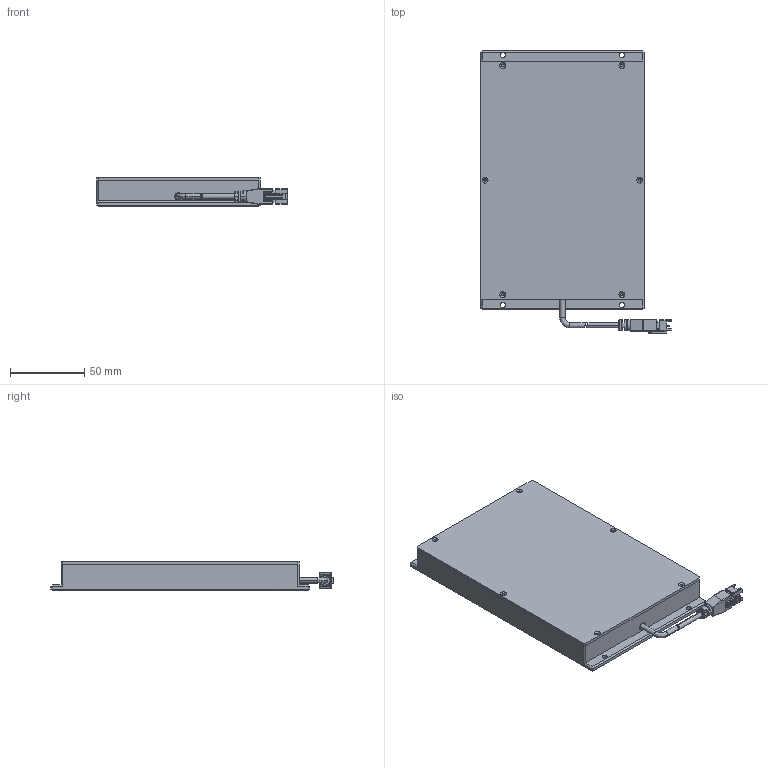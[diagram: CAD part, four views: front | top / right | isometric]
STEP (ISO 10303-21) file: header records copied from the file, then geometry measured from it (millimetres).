
FILE_DESCRIPTION (( 'STEP AP203' ), '1' );
FILE_NAME ('CRT-FLD150100-¼òÒ×3DÍ¼.STEP', '2021-11-24T01:23:13', ( 'Admin' ), ( '' ), 'SwSTEP 2.0', 'SolidWorks 2018', '' );
FILE_SCHEMA (( 'CONFIG_CONTROL_DESIGN' ));
Length unit declared in the file: millimetre
Products named in the file (1): CRT-FLD150100-潠眢3D芞
Bounding box: 128.23 x 189.95 x 20 mm (x, y, z)
Surface area: 71312.9 mm2 (no closed solid volume)
Topology: 0 solids, 4 shells, 252 faces, 737 edges, 477 vertices
Faces by surface type: plane 150, cylinder 74, cone 16, bspline 8, torus 4
Entity records: 8766 total; most frequent: CARTESIAN_POINT 2053, DIRECTION 1376, ORIENTED_EDGE 1314, EDGE_CURVE 733, LINE 480, VECTOR 480, VERTEX_POINT 477, AXIS2_PLACEMENT_3D 448
